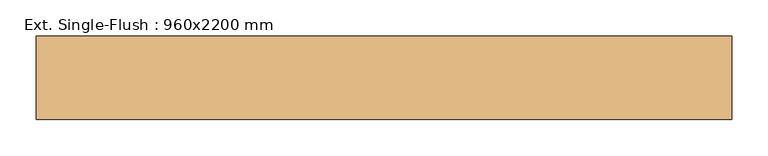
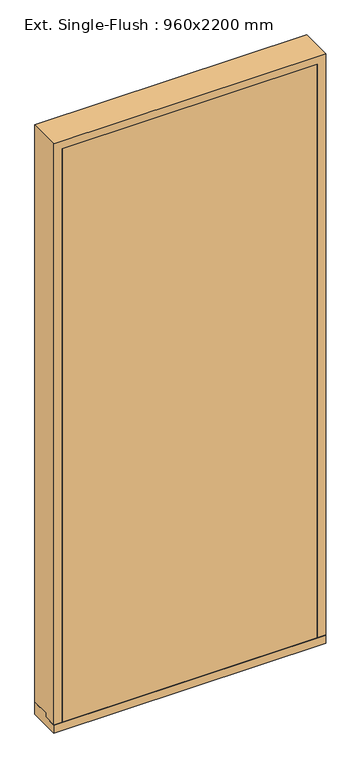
"""IFC4 building model written with IfcOpenShell, lengths in millimetres: door geometry, Ext. Single-Flush : 960x2200 mm."""

from ifc_helpers import new_model, si_unit, frame, origin, place, context, project, spatial, polyline, outline, extrude, faceted_brep, source, transform, mapped, element, save


def ext_single_flush_960x2200_mm_918893a4(model_context):
    return source(origin(), model_context, "Body", "SolidModel", [
        extrude(outline(polyline([(65.0, 45.0), (130.0, 45.0), (130.0, 0.0), (15.0, 0.0), (15.0, 30.0), (65.0, 30.0), (65.0, 45.0)])), frame((-480.0, 0.0, 0.0), z_axis=(1.0, 0.0, 0.0), x_axis=(0.0, 1.0, 0.0)), (0.0, 0.0, 1.0), 960.0),
        extrude(outline(polyline([(450.0, 65.0), (450.0, 15.0), (-450.0, 15.0), (-450.0, 65.0), (450.0, 65.0)])), frame((0.0, 0.0, 30.0), z_axis=(0.0, 0.0, 1.0), x_axis=(1.0, 0.0, 0.0)), (0.0, 0.0, 1.0), 2140.0),
        faceted_brep([(-450.0, 65.0, 2170.0), (-450.0, 65.0, 45.0), (-435.0, 65.0, 45.0), (-435.0, 65.0, 2155.0), (435.0, 65.0, 2155.0), (435.0, 65.0, 45.0), (450.0, 65.0, 45.0), (450.0, 65.0, 2170.0), (-450.0, 15.0, 2170.0), (-450.0, 15.0, 30.0), (-450.0, 65.0, 30.0), (-480.0, 65.0, 30.0), (-480.0, 65.0, 45.0), (480.0, 65.0, 45.0), (480.0, 65.0, 30.0), (450.0, 65.0, 30.0), (-480.0, 15.0, 30.0), (480.0, 15.0, 30.0), (450.0, 15.0, 30.0), (-480.0, 15.0, 2200.0), (450.0, 15.0, 2170.0), (480.0, 15.0, 2200.0), (435.0, 130.0, 45.0), (480.0, 130.0, 45.0), (-480.0, 130.0, 45.0), (-435.0, 130.0, 45.0), (435.0, 130.0, 2155.0), (-435.0, 130.0, 2155.0), (-480.0, 130.0, 2200.0), (480.0, 130.0, 2200.0)], [[[0, 1, 2, 3, 4, 5, 6, 7]], [[8, 9, 10, 1, 0]], [[1, 10, 11, 12]], [[13, 14, 15, 6]], [[10, 9, 16, 11]], [[14, 17, 18, 15]], [[19, 16, 9, 8, 20, 18, 17, 21]], [[7, 6, 15, 18, 20]], [[6, 5, 22, 23, 13]], [[12, 24, 25, 2, 1]], [[26, 22, 5, 4]], [[3, 2, 25, 27]], [[27, 25, 24, 28, 29, 23, 22, 26]], [[21, 17, 14, 13, 23, 29]], [[28, 24, 12, 11, 16, 19]], [[0, 7, 20, 8]], [[3, 27, 26, 4]], [[28, 19, 21, 29]]]),
    ])


if __name__ == "__main__":
    model = new_model("IFC4")
    model_context = context("Model", 3, world=origin())
    ifc_project = project(units=[si_unit("LENGTHUNIT", "METRE", prefix="MILLI")], contexts=[model_context])
    site = spatial("IfcSite", under=ifc_project)
    building = spatial("IfcBuilding", under=site)
    placement = place(None, origin())
    ext_single_flush_960x2200_mm_shape = ext_single_flush_960x2200_mm_918893a4(model_context)
    element("IfcDoor", 1, ObjectType="Ext. Single-Flush : 960x2200 mm", at=placement, inside=building, context=model_context, shape_type="MappedRepresentation", body=[
        mapped(ext_single_flush_960x2200_mm_shape, transform((0.0, 0.0, 0.0), x_axis=(1.0, 0.0, 0.0), y_axis=(0.0, 1.0, 0.0), z_axis=(0.0, 0.0, 1.0))),
    ])
    save(model, "model.ifc")
